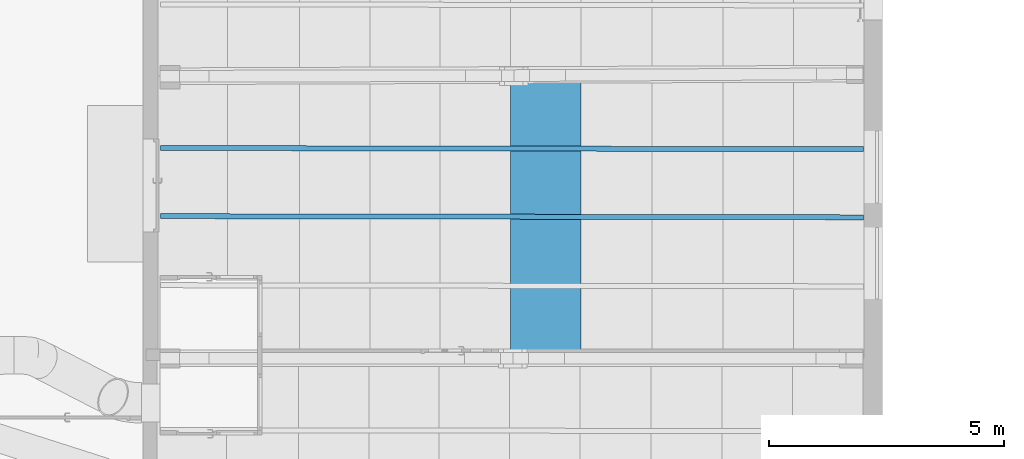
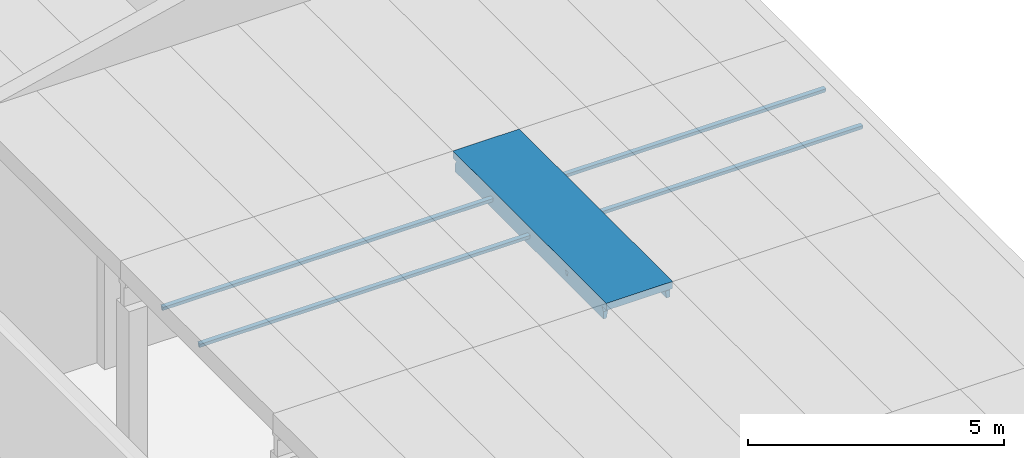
# One storey, part 51 of 301: 3 beams.
"""IFC2X3 building model written with IfcOpenShell, lengths in millimetres."""

from ifc_helpers import new_model, entity, si_unit, converted_unit, derived_unit, money_unit, direction, frame, origin_with_axes, place, context, subcontext, project, spatial, faceted_brep, material, type_object, element, save


model = new_model("IFC2X3")

# Units and contexts
model_context = context("Model", 3, precision=0.01, world=origin_with_axes(), true_north=direction((0.0, 1.0)))
body_context = subcontext(model_context, "Body", "Model", "MODEL_VIEW")
ifc_project = project(units=[si_unit("LENGTHUNIT", "METRE", prefix="MILLI"), si_unit("AREAUNIT", "SQUARE_METRE"), si_unit("VOLUMEUNIT", "CUBIC_METRE"), converted_unit("PLANEANGLEUNIT", "DEGREE", entity("IfcPlaneAngleMeasure", 0.0174532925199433), si_unit("PLANEANGLEUNIT", "RADIAN"), dimensions=[0, 0, 0, 0, 0, 0, 0]), money_unit("EUR"), converted_unit("TIMEUNIT", "Year", entity("IfcTimeMeasure", 31557600.0), si_unit("TIMEUNIT", "SECOND"), dimensions=[0, 0, 1, 0, 0, 0, 0]), si_unit("MASSUNIT", "GRAM", prefix="KILO"), si_unit("THERMODYNAMICTEMPERATUREUNIT", "DEGREE_CELSIUS"), si_unit("LUMINOUSINTENSITYUNIT", "LUMEN"), si_unit("ENERGYUNIT", "JOULE", prefix="MEGA"), derived_unit("THERMALCONDUCTANCEUNIT", [(si_unit("POWERUNIT", "WATT"), 1), (si_unit("LENGTHUNIT", "METRE"), -1), (si_unit("THERMODYNAMICTEMPERATUREUNIT", "KELVIN"), -1)]), derived_unit("SPECIFICHEATCAPACITYUNIT", [(si_unit("ENERGYUNIT", "JOULE"), 1), (si_unit("MASSUNIT", "GRAM", prefix="KILO"), -1), (si_unit("THERMODYNAMICTEMPERATUREUNIT", "KELVIN"), -1)]), derived_unit("MASSDENSITYUNIT", [(si_unit("MASSUNIT", "GRAM", prefix="KILO"), 1), (si_unit("VOLUMEUNIT", "CUBIC_METRE"), -1)])], contexts=[model_context])

# Site, building, storey
site_placement = place(None, frame((0.0, 0.0, 8650.0), z_axis=(0.0, 0.0, 1.0), x_axis=(1.0, 0.0, 0.0)))
site = spatial("IfcSite", under=ifc_project, at=site_placement, Name="43301:001:0844", CompositionType="ELEMENT")
building_placement = place(site_placement, origin_with_axes())
building = spatial("IfcBuilding", under=site, at=building_placement, Name="Kuressaare Ametikooli tuulikute mehaanikute õppekorpus", CompositionType="ELEMENT")
storey_placement = place(building_placement, origin_with_axes())
storey = spatial("IfcBuildingStorey", under=building, at=storey_placement, Name="1.korrus", CompositionType="ELEMENT", Elevation=0.0)

# Beams
ifc_material = material(Name="GENEERILINE - KONSTRUKTRIOON")
beam_type_1 = type_object("IfcBeamType", Name="Precast Double Tee 2 1500 x 440", PredefinedType="NOTDEFINED")
beam_1_placement = place(storey_placement, frame((96475.87775377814, 56111.13396042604, 7100.0), z_axis=(0.0, 0.0, 1.0), x_axis=(-1.0, 0.0, 0.0)))
element("IfcBeam", 1, at=beam_1_placement, inside=storey, type_object=beam_type_1, material=ifc_material, context=body_context, shape_type="Brep", body=[
    faceted_brep([(-750.0, 162.2051226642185, -169.8235046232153), (-750.0, 19.83005023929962, -169.8235046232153), (-750.0, 19.83005023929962, 0.0), (-750.0, 6025.936214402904, 0.0), (-750.0, 6025.936214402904, -169.8234995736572), (-750.0, 5846.308890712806, -169.8234995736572), (-750.0, 5857.271438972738, -181.3563575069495), (-750.0, 5888.94391699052, -222.3718083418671), (-750.0, 5914.535907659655, -267.4324680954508), (-750.0, 5914.536430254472, -440.0001340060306), (-750.0, 93.97714354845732, -440.0001340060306), (-750.0, 93.97766614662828, -267.4324731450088), (-750.0, 119.5698216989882, -222.3718133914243), (-750.0, 151.2425037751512, -181.3563625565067), (-750.0, 1519.526741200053, -184.1935020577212), (-750.0, 1540.267688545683, -271.7709778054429), (-750.0, 1580.26774224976, -271.7709778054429), (-750.0, 1601.007727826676, -184.1936973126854), (-750.0, 1605.582347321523, -175.3978342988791), (-750.0, 1613.781204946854, -169.8234995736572), (-750.0, 1506.753310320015, -169.8234995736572), (-750.0, 1514.95210129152, -175.3977593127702), (-750.0, 2991.379951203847, -271.7709778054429), (-750.0, 3031.38000490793, -271.7709778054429), (-750.0, 3052.119990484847, -184.1936973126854), (-750.0, 3056.694609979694, -175.3978342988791), (-750.0, 3064.893467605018, -169.8234995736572), (-750.0, 2957.865572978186, -169.8234995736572), (-750.0, 2966.064363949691, -175.3977593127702), (-750.0, 2970.639003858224, -184.1935020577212), (-750.0, 4502.240061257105, -271.7709778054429), (-750.0, 4522.980046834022, -184.1936973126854), (-750.0, 4527.554666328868, -175.3978342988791), (-750.0, 4535.753523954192, -169.8234995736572), (-750.0, 4428.72562932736, -169.8234995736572), (-750.0, 4436.924420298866, -175.3977593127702), (-750.0, 4441.499060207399, -184.1935020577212), (-750.0, 4462.24000755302, -271.7709778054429), (-584.2531439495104, 162.801892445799, -169.8235046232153), (-584.2531439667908, 19.83005023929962, -169.8235046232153), (750.0, 19.83005023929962, -169.8235046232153), (750.0, 19.83005023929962, 0.0), (586.8200850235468, 19.83005023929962, -169.8235046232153), (750.0, 6025.936214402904, 0.0), (750.0, 6025.936214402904, -169.8234995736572), (586.8200850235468, 6025.936214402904, -169.8234995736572), (-584.2531439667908, 6025.936214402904, -169.8234995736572), (-584.2531439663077, 5846.262615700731, -169.8234995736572), (-604.310838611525, 5849.768416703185, -173.5057932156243), (-617.2693537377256, 5857.234381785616, -181.3563575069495), (-621.7526411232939, 5859.333011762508, -184.072435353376), (-634.3038197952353, 5871.748150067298, -200.1453415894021), (-640.3274701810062, 5886.794744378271, -219.6283094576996), (-640.7591226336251, 5888.913417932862, -222.3718083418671), (-647.8488081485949, 5914.507387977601, -267.4324680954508), (-674.9999969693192, 5914.515490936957, -440.0001340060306), (-674.9999969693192, 94.2471802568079, -440.0001340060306), (-647.848808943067, 94.34546041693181, -267.4324731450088), (-640.7591234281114, 119.9631423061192, -222.3718133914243), (-640.3274701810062, 122.0832670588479, -219.6283094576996), (-634.3038197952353, 137.1499646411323, -200.1453415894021), (-621.7526411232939, 149.6068691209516, -184.072435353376), (-617.2693620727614, 151.720399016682, -181.3563625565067), (-604.310838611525, 159.2294561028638, -173.5057932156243), (-621.847180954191, 1519.316742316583, -184.1935020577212), (-634.3038197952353, 1523.115023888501, -200.1453415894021), (-640.3274701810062, 1527.739040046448, -219.6283094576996), (-648.5314139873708, 1540.101416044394, -271.7709778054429), (-648.5314139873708, 1580.101469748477, -271.7709778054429), (-640.3274701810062, 1592.436413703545, -219.6283094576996), (-634.3038197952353, 1597.040484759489, -200.1453415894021), (-621.8473334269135, 1600.797729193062, -184.1936973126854), (-621.7526411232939, 1600.860640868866, -184.072435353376), (-607.4339316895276, 1605.348730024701, -175.3978342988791), (-604.310838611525, 1608.126469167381, -173.5057932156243), (-584.2531439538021, 1613.509602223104, -169.8234995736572), (-584.2531439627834, 1506.481707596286, -169.8234995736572), (-604.310838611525, 1511.930604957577, -173.5057932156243), (-607.4338079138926, 1514.718483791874, -175.3977593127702), (-621.7526411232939, 1519.253620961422, -184.072435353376), (-648.5314139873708, 2991.213678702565, -271.7709778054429), (-648.5314139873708, 3031.213732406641, -271.7709778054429), (-640.3274701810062, 3043.548676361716, -219.6283094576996), (-634.3038197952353, 3048.15274741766, -200.1453415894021), (-621.8473334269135, 3051.909991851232, -184.1936973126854), (-621.7526411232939, 3051.972903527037, -184.072435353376), (-607.4339316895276, 3056.460992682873, -175.3978342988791), (-604.310838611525, 3059.238731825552, -173.5057932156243), (-584.2531439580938, 3064.621864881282, -169.8234995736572), (-584.2531439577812, 2957.59397025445, -169.8234995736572), (-604.310838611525, 2963.042867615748, -173.5057932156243), (-607.4338079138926, 2965.830746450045, -175.3977593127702), (-621.7526411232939, 2970.365883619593, -184.072435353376), (-621.8471809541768, 2970.429004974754, -184.1935020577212), (-634.3038197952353, 2974.227286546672, -200.1453415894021), (-640.3274701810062, 2978.851302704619, -219.6283094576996), (-634.3038197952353, 4519.012803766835, -200.1453415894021), (-621.8473334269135, 4522.770048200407, -184.1936973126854), (-648.5314139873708, 4502.073788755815, -271.7709778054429), (-640.3274701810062, 4514.408732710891, -219.6283094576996), (-621.7526411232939, 4522.832959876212, -184.072435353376), (-607.4339316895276, 4527.321049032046, -175.3978342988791), (-604.310838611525, 4530.098788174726, -173.5057932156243), (-584.2531439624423, 4535.481921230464, -169.8234995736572), (-584.2531439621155, 4428.454026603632, -169.8234995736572), (-604.310838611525, 4433.902923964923, -173.5057932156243), (-607.4338079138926, 4436.690802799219, -175.3977593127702), (-621.7526411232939, 4441.225939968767, -184.072435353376), (-621.8471809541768, 4441.289061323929, -184.1935020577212), (-640.3274701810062, 4449.711359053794, -219.6283094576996), (-648.5314139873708, 4462.073735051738, -271.7709778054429), (-634.3038197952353, 4445.087342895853, -200.1453415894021), (586.8200850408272, 167.01832907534, -169.8235046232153), (586.8200850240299, 5845.935662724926, -169.8234995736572), (586.8200850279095, 4533.562930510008, -169.8234995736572), (586.8200850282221, 4426.535035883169, -169.8234995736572), (586.820085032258, 3062.702874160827, -169.8234995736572), (586.8200850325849, 2955.674979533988, -169.8234995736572), (586.8200850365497, 1611.590611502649, -169.8234995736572), (586.8200850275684, 1504.562716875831, -169.8234995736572), (750.0, 167.6058566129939, -169.8235046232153), (750.0, 156.6432377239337, -181.3563625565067), (750.0, 124.9705556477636, -222.3718133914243), (750.0, 99.37840009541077, -267.4324731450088), (750.0, 99.37787749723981, -440.0001340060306), (750.0, 5914.117643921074, -440.0001340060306), (750.0, 5914.117121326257, -267.4324680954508), (750.0, 5888.525130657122, -222.3718083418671), (750.0, 5856.85265263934, -181.3563575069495), (750.0, 5845.890104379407, -169.8234995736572), (750.0, 1603.124357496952, -175.3978342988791), (750.0, 1598.549738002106, -184.1936973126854), (750.0, 1577.809752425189, -271.7709778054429), (750.0, 1537.809698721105, -271.7709778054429), (750.0, 1517.068751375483, -184.1935020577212), (750.0, 1512.49411146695, -175.3977593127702), (750.0, 1504.295320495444, -169.8234995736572), (750.0, 1611.323215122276, -169.8234995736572), (750.0, 3049.662000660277, -184.1936973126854), (750.0, 3028.92201508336, -271.7709778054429), (750.0, 2988.921961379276, -271.7709778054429), (750.0, 2968.181014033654, -184.1935020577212), (750.0, 2963.606374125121, -175.3977593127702), (750.0, 2955.407583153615, -169.8234995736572), (750.0, 3062.435477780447, -169.8234995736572), (750.0, 3054.236620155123, -175.3978342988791), (750.0, 4499.782071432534, -271.7709778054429), (750.0, 4459.78201772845, -271.7709778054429), (750.0, 4439.041070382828, -184.1935020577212), (750.0, 4434.466430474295, -175.3977593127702), (750.0, 4426.267639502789, -169.8234995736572), (750.0, 4533.295534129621, -169.8234995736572), (750.0, 4525.096676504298, -175.3978342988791), (750.0, 4520.522057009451, -184.1936973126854), (604.4404036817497, 5847.97439437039, -171.9734684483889), (604.4404036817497, 4530.371833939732, -171.9734684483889), (604.4404036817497, 3059.511777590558, -171.9734684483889), (604.4404036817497, 4429.668401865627, -171.9734684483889), (604.4404036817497, 2958.808345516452, -171.9734684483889), (604.4404036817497, 1608.399514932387, -171.9734684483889), (604.4404036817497, 1507.696082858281, -171.9734684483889), (604.4404036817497, 165.0381113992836, -171.9734684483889), (620.1516209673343, 157.2414792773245, -180.2351660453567), (621.1429310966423, 156.1792892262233, -181.3563625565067), (631.9095256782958, 146.8145893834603, -193.5336498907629), (638.1842783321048, 134.0145903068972, -210.1386333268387), (640.409702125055, 124.5759769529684, -222.3718133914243), (648.6070035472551, 99.01333569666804, -267.4324731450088), (680.0000000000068, 99.12584324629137, -440.0001340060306), (680.0000000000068, 5914.137187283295, -440.0001340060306), (648.6070026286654, 5914.145429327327, -267.4324680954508), (640.4097012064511, 5888.55572727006, -222.3718083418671), (621.1429266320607, 5856.888628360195, -181.3563575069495), (638.1842783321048, 5879.109787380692, -210.1386333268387), (631.9095256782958, 5866.28903059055, -193.5336498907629), (620.1516209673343, 5855.823157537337, -180.2351660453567), (620.1516209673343, 1600.821298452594, -180.2351660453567), (623.651571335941, 1598.756780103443, -184.1936973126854), (610.952498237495, 1603.352209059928, -175.3978342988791), (638.1842783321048, 1592.588705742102, -210.1386333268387), (649.3962514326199, 1577.974607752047, -271.7709778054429), (631.9095256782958, 1596.531367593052, -193.5336498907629), (649.3962514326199, 1537.97455404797, -271.7709778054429), (638.1842783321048, 1523.396556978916, -210.1386333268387), (631.9095256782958, 1519.474285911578, -193.5336498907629), (623.651398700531, 1517.275793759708, -184.1935020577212), (610.952355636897, 1512.721963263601, -175.3977593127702), (620.1516209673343, 1515.222809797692, -180.2351660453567), (649.3962514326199, 3029.086870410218, -271.7709778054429), (623.651571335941, 3049.869042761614, -184.1936973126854), (631.9095256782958, 3047.643630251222, -193.5336498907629), (638.1842783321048, 3043.700968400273, -210.1386333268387), (649.3962514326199, 2989.086816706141, -271.7709778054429), (638.1842783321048, 2974.508819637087, -210.1386333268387), (631.9095256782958, 2970.586548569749, -193.5336498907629), (623.651398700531, 2968.388056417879, -184.1935020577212), (620.1516209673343, 2966.335072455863, -180.2351660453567), (610.952355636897, 2963.834225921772, -175.3977593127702), (610.952498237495, 3054.464471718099, -175.3978342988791), (620.1516209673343, 3051.933561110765, -180.2351660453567), (649.3962514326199, 4499.946926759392, -271.7709778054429), (649.3962514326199, 4459.946873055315, -271.7709778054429), (638.1842783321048, 4445.368875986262, -210.1386333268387), (631.9095256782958, 4441.446604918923, -193.5336498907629), (623.651398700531, 4439.248112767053, -184.1935020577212), (620.1516209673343, 4437.195128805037, -180.2351660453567), (610.952355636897, 4434.694282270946, -175.3977593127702), (610.952498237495, 4525.324528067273, -175.3978342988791), (620.1516209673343, 4522.793617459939, -180.2351660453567), (623.651571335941, 4520.729099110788, -184.1936973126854), (631.9095256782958, 4518.503686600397, -193.5336498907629), (638.1842783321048, 4514.561024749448, -210.1386333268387)], [[[0, 1, 2, 3, 4, 5, 6, 7, 8, 9, 10, 11, 12, 13], [14, 15, 16, 17, 18, 19, 20, 21], [22, 23, 24, 25, 26, 27, 28, 29], [30, 31, 32, 33, 34, 35, 36, 37]], [[38, 39, 1, 0]], [[40, 41, 2, 1, 39, 42]], [[3, 2, 41, 43]], [[4, 3, 43, 44, 45, 46]], [[47, 5, 4, 46]], [[6, 5, 47, 48, 49]], [[49, 50, 51, 52, 53, 7, 6]], [[54, 8, 7, 53]], [[55, 9, 8, 54]], [[10, 9, 55, 56]], [[56, 57, 11, 10]], [[57, 58, 12, 11]], [[12, 58, 59, 60, 61, 62, 13]], [[38, 0, 13, 62, 63]], [[64, 65, 66, 67, 15, 14]], [[16, 15, 67, 68]], [[68, 69, 70, 71, 17, 16]], [[17, 71, 72, 73, 18]], [[18, 73, 74, 75, 19]], [[20, 19, 75, 76]], [[20, 76, 77, 78, 21]], [[21, 78, 79, 64, 14]], [[22, 80, 81, 23]], [[82, 83, 84, 24, 23, 81]], [[84, 85, 86, 25, 24]], [[86, 87, 88, 26, 25]], [[26, 88, 89, 27]], [[89, 90, 91, 28, 27]], [[91, 92, 93, 29, 28]], [[94, 95, 80, 22, 29, 93]], [[96, 97, 31, 30, 98, 99]], [[100, 101, 32, 31, 97]], [[102, 103, 33, 32, 101]], [[103, 104, 34, 33]], [[105, 106, 35, 34, 104]], [[107, 108, 36, 35, 106]], [[109, 110, 37, 36, 108, 111]], [[110, 98, 30, 37]], [[112, 42, 39, 38, 76, 75, 89, 88, 104, 103, 47, 46, 45, 113, 114, 115, 116, 117, 118, 119]], [[43, 41, 40, 120, 121, 122, 123, 124, 125, 126, 127, 128, 129, 44], [130, 131, 132, 133, 134, 135, 136, 137], [138, 139, 140, 141, 142, 143, 144, 145], [146, 147, 148, 149, 150, 151, 152, 153]], [[120, 40, 42, 112]], [[129, 113, 45, 44]], [[48, 47, 103, 102]], [[48, 102, 101, 100, 50, 49]], [[50, 100, 97, 96, 51]], [[52, 51, 96, 99]], [[53, 52, 99, 98, 110, 109, 82, 81, 80, 95, 69, 68, 67, 66, 59, 58, 57, 56, 55, 54]], [[66, 65, 60, 59]], [[79, 61, 60, 65, 64]], [[63, 62, 61, 79, 78, 77]], [[77, 76, 38, 63]], [[94, 70, 69, 95]], [[71, 70, 94, 93, 92, 72]], [[73, 72, 92, 91, 90, 74]], [[89, 75, 74, 90]], [[83, 82, 109, 111]], [[83, 111, 108, 107, 85, 84]], [[85, 107, 106, 105, 87, 86]], [[88, 87, 105, 104]], [[113, 154, 155, 114]], [[151, 150, 115, 114]], [[156, 116, 115, 157]], [[116, 144, 143, 117]], [[158, 159, 118, 117]], [[119, 118, 137, 136]], [[119, 160, 161, 112]], [[112, 161, 162, 163, 121, 120]], [[163, 164, 165, 166, 122, 121]], [[123, 122, 166, 167]], [[124, 123, 167, 168]], [[168, 169, 125, 124]], [[125, 169, 170, 126]], [[126, 170, 171, 127]], [[172, 128, 127, 171, 173, 174]], [[113, 129, 128, 172, 175, 154]], [[176, 177, 131, 130, 178]], [[179, 180, 132, 131, 177, 181]], [[180, 182, 133, 132]], [[134, 133, 182, 183, 184, 185]], [[186, 135, 134, 185, 187]], [[119, 136, 135, 186, 160]], [[159, 178, 130, 137, 118]], [[188, 139, 138, 189, 190, 191]], [[192, 140, 139, 188]], [[140, 192, 193, 194, 195, 141]], [[142, 141, 195, 196, 197]], [[143, 142, 197, 158, 117]], [[198, 145, 144, 116, 156]], [[189, 138, 145, 198, 199]], [[147, 146, 200, 201]], [[201, 202, 203, 204, 148, 147]], [[148, 204, 205, 206, 149]], [[149, 206, 157, 115, 150]], [[152, 151, 114, 155, 207]], [[153, 152, 207, 208, 209]], [[146, 153, 209, 210, 211, 200]], [[175, 208, 207, 155, 154]], [[156, 157, 206, 205, 199, 198]], [[178, 159, 158, 197, 196, 176]], [[187, 162, 161, 160, 186]], [[164, 163, 162, 187, 185, 184]], [[184, 183, 165, 164]], [[202, 201, 200, 211, 173, 171, 170, 169, 168, 167, 166, 165, 183, 182, 180, 179, 193, 192, 188, 191]], [[174, 173, 211, 210]], [[174, 210, 209, 208, 175, 172]], [[177, 176, 196, 195, 194, 181]], [[193, 179, 181, 194]], [[199, 205, 204, 203, 190, 189]], [[191, 190, 203, 202]]]),
])
beam_type_2 = type_object("IfcBeamType", Name="Precast Single Tee 2 107 x 102", PredefinedType="NOTDEFINED")
beam_2_placement = place(storey_placement, frame((88270.22240509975, 53114.42971328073, 6930.176500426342), z_axis=(0.0, 0.0, 1.0), x_axis=(-0.001638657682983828, -0.9999986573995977, 0.0)))
element("IfcBeam", 2, at=beam_2_placement, inside=storey, type_object=beam_type_2, material=ifc_material, context=body_context, shape_type="Brep", body=[
    faceted_brep([(45.31502884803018, 0.0, -5.574334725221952), (45.31502884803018, 14968.77585727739, -5.574334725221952), (53.51387546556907, 14968.77585727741, 0.0), (53.51387546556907, 0.0, 0.0), (40.74041549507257, 0.0, -14.37019773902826), (40.74041549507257, 14968.77585727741, -14.37019773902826), (20.00045776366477, 14968.77585727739, -101.9474782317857), (-19.99954223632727, 14968.77585727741, -101.9474782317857), (-40.74046173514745, 14968.77585727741, -14.37000248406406), (-45.31509550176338, 14968.77585727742, -5.574259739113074), (-53.51387546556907, 14968.77585727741, 0.0), (-53.51387546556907, 0.0, 0.0), (-45.31509550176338, 0.0, -5.574259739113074), (-40.74046173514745, 0.0, -14.37000248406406), (-19.99954223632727, 0.0, -101.9474782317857), (20.00045776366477, 0.0, -101.9474782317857)], [[[0, 1, 2, 3]], [[4, 5, 1, 0]], [[2, 1, 5, 6, 7, 8, 9, 10]], [[3, 2, 10, 11]], [[4, 0, 3, 11, 12, 13, 14, 15]], [[15, 6, 5, 4]], [[14, 7, 6, 15]], [[13, 8, 7, 14]], [[12, 9, 8, 13]], [[11, 10, 9, 12]]]),
])
beam_3_placement = place(storey_placement, frame((88272.60027816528, 54565.5380794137, 6930.176500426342), z_axis=(0.0, 0.0, 1.0), x_axis=(-0.001638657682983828, -0.9999986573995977, 0.0)))
element("IfcBeam", 3, at=beam_3_placement, inside=storey, type_object=beam_type_2, material=ifc_material, context=body_context, shape_type="Brep", body=[
    faceted_brep([(45.31502884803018, 0.0, -5.574334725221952), (45.31502884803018, 14968.77585727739, -5.574334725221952), (53.51387546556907, 14968.77585727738, 0.0), (53.51387546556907, 0.0, 0.0), (40.74041549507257, 0.0, -14.37019773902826), (40.74041549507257, 14968.77585727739, -14.37019773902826), (20.00045776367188, 14968.77585727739, -101.9474782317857), (-19.99954223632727, 14968.77585727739, -101.9474782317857), (-40.74046173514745, 14968.77585727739, -14.37000248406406), (-45.31509550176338, 14968.77585727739, -5.574259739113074), (-53.51387546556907, 14968.77585727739, 0.0), (-53.51387546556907, 0.0, 0.0), (-45.31509550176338, 0.0, -5.574259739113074), (-40.74046173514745, 0.0, -14.37000248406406), (-19.99954223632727, 0.0, -101.9474782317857), (20.00045776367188, 0.0, -101.9474782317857)], [[[0, 1, 2, 3]], [[4, 5, 1, 0]], [[2, 1, 5, 6, 7, 8, 9, 10]], [[3, 2, 10, 11]], [[4, 0, 3, 11, 12, 13, 14, 15]], [[15, 6, 5, 4]], [[14, 7, 6, 15]], [[13, 8, 7, 14]], [[12, 9, 8, 13]], [[11, 10, 9, 12]]]),
])

save(model, "model.ifc")
